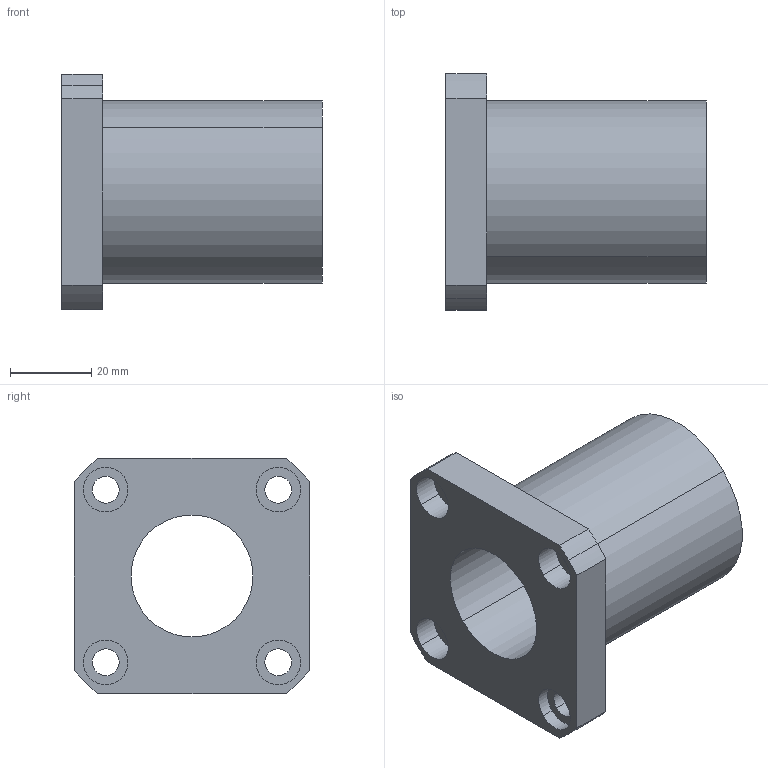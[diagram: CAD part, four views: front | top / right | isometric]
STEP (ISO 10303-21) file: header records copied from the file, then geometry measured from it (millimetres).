
FILE_DESCRIPTION (( 'STEP AP214' ), '1' );
FILE_NAME ('2.7052 Lineaarilaakeri LMK30UU.STEP', '2024-06-24T12:18:43', ( '' ), ( '' ), 'SwSTEP 2.0', 'SolidWorks 2024', '' );
FILE_SCHEMA (( 'AUTOMOTIVE_DESIGN' ));
Length unit declared in the file: millimetre
Products named in the file (1): 2.7052 Lineaarilaakeri LMK30UU
Bounding box: 64 x 58 x 58 mm (x, y, z)
Volume: 70944.9 mm3; surface area: 21877.5 mm2
Topology: 1 solids, 1 shells, 37 faces, 90 edges, 60 vertices
Faces by surface type: cylinder 26, plane 11
Entity records: 1159 total; most frequent: DIRECTION 218, CARTESIAN_POINT 188, ORIENTED_EDGE 180, EDGE_CURVE 90, AXIS2_PLACEMENT_3D 90, VERTEX_POINT 60, EDGE_LOOP 52, CIRCLE 52
